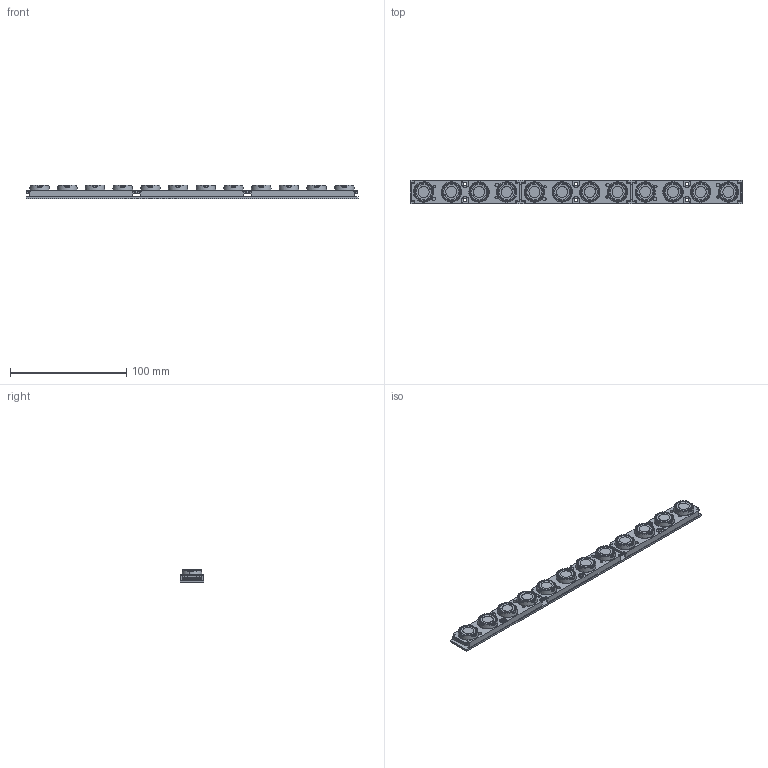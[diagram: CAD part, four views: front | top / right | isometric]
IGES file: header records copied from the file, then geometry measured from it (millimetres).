
Start section: START RECORD GO HERE.
Global section: file name: Florentina-12x1_with reference pcb_MechanicalModel_20180718.igs; native system: DASSAULT SYSTEMES CATIA Version 5-6 Release 2013 - www.3ds.com; preprocessor: V5-6R2013_5.23.3.0.09-04-2013.20.00; author: matti.vuola; organization: LEDIL; date: 20180720.115225; units: millimetre
Bounding box: 285.6 x 20 x 11.26 mm (x, y, z)
Surface area: 37281.3 mm2 (no closed solid volume)
Topology: 0 solids, 0 shells, 2916 faces, 16758 edges, 16702 vertices
Faces by surface type: revolution 1571, plane 1105, bspline 240
